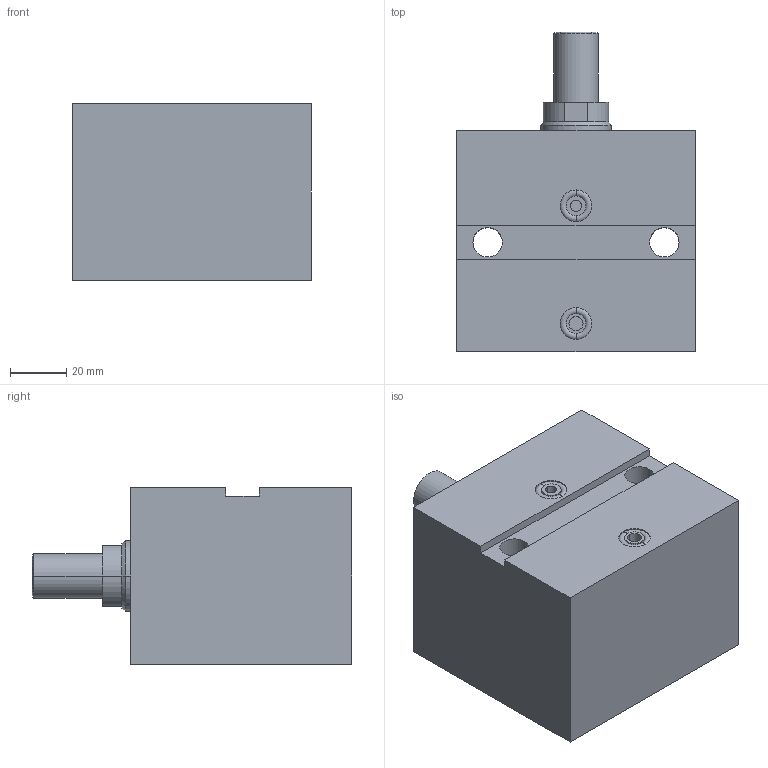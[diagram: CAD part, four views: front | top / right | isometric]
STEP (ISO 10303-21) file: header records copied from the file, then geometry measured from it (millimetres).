
FILE_DESCRIPTION (( 'STEP AP203' ), '1' );
FILE_NAME ('GERMA_Blockzylinder_604-040-025-A.STEP', '2016-04-06T15:58:40', ( '' ), ( '' ), 'SwSTEP 2.0', 'SolidWorks 2015', '' );
FILE_SCHEMA (( 'CONFIG_CONTROL_DESIGN' ));
Length unit declared in the file: millimetre
Products named in the file (3): GH-600-040_GH-604-040-025; Kolben 60x-040_Kolben DU.40-Hub25-AG; GERMA_Blockzylinder_604-040-025-A
Assembly tree (2 placements, depth 2):
  GERMA_Blockzylinder_604-040-025-A
    GH-600-040_GH-604-040-025
    Kolben 60x-040_Kolben DU.40-Hub25-AG
Bounding box: 85 x 114 x 63 mm (x, y, z)
Volume: 399477.9 mm3; surface area: 57807.5 mm2
Topology: 2 solids, 2 shells, 77 faces, 166 edges, 101 vertices
Faces by surface type: cylinder 35, plane 26, cone 12, torus 4
Entity records: 2386 total; most frequent: DIRECTION 411, CARTESIAN_POINT 345, ORIENTED_EDGE 324, AXIS2_PLACEMENT_3D 167, EDGE_CURVE 162, VERTEX_POINT 101, EDGE_LOOP 93, CIRCLE 85
